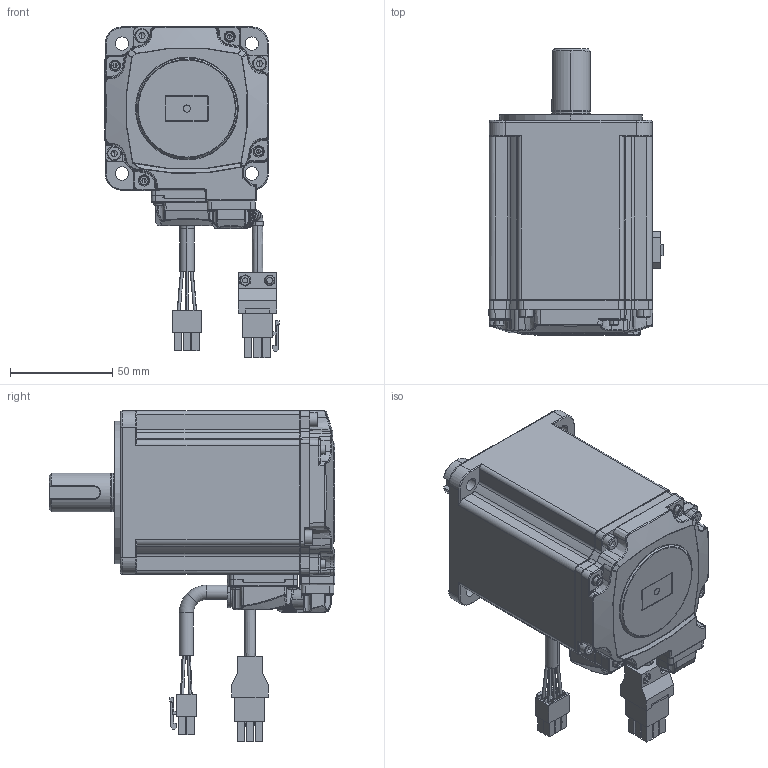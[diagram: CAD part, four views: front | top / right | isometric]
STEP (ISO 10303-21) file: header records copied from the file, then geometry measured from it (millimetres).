
FILE_DESCRIPTION((''),'2;1');
FILE_NAME('ECM-B3H-C20807RS1_V5_SW0002','2022-11-09T14:44:31',('CHHSU.HSU'),(''),'CREO PARAMETRIC BY PTC INC, 2020454','CREO PARAMETRIC BY PTC INC, 2020454','');
FILE_SCHEMA(('AUTOMOTIVE_DESIGN { 1 0 10303 214 1 1 1 1 }'));
Products named in the file (1): ECM-B3H-C20807RS1_V5_SW0002
Bounding box: 85.53 x 140.15 x 162.3 mm (x, y, z)
Volume: 629490.5 mm3; surface area: 73572.4 mm2
Topology: 5 solids, 5 shells, 2562 faces, 6539 edges, 4056 vertices
Faces by surface type: plane 1194, cylinder 627, cone 260, bspline 231, torus 148, sphere 55, extrusion 47
Entity records: 118232 total; most frequent: CARTESIAN_POINT 46356, ORIENTED_EDGE 13008, DIRECTION 11490, EDGE_CURVE 6504, AXIS2_PLACEMENT_3D 4152, VERTEX_POINT 4056, VECTOR 3186, LINE 3139
